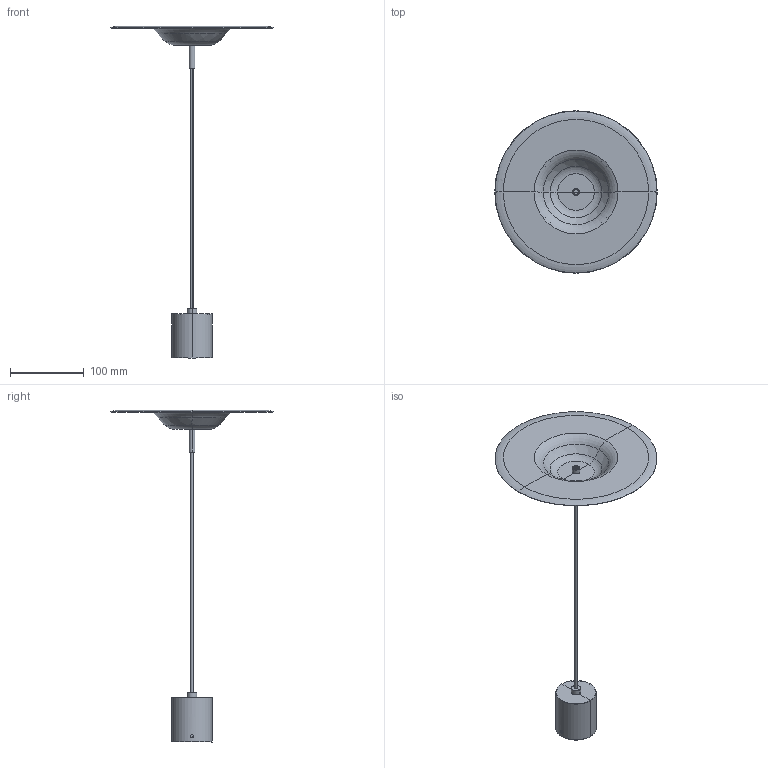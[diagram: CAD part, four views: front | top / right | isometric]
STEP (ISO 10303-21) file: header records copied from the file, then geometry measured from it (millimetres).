
FILE_DESCRIPTION(/* description */ (''),/* implementation_level */ '2;1');
FILE_NAME(/* name */ '64224.step',/* time_stamp */ '2024-06-25T10:49:17+02:00',/* author */ ('RenataManzini'),/* organization */ (''),/* preprocessor_version */ 'ST-DEVELOPER v20',/* originating_system */ 'AutoCAD Mechanical',/* authorisation */ '');
FILE_SCHEMA (('AUTOMOTIVE_DESIGN { 1 0 10303 214 3 1 1 }'));
Length unit declared in the file: millimetre
Products named in the file (2): Product; Pieza_20406_SC - Lamp Holder-709214-_3D_
Assembly tree (1 placements, depth 2):
  Product
    Pieza_20406_SC - Lamp Holder-709214-_3D_
Bounding box: 220.11 x 220.11 x 450 mm (x, y, z)
Volume: 124198.4 mm3; surface area: 115204.8 mm2
Topology: 8 solids, 8 shells, 104 faces, 209 edges, 123 vertices
Faces by surface type: plane 44, cylinder 40, torus 10, cone 6, bspline 4
Entity records: 3746 total; most frequent: CARTESIAN_POINT 1541, DIRECTION 454, ORIENTED_EDGE 412, EDGE_CURVE 206, AXIS2_PLACEMENT_3D 180, VERTEX_POINT 118, EDGE_LOOP 116, FACE_OUTER_BOUND 104
